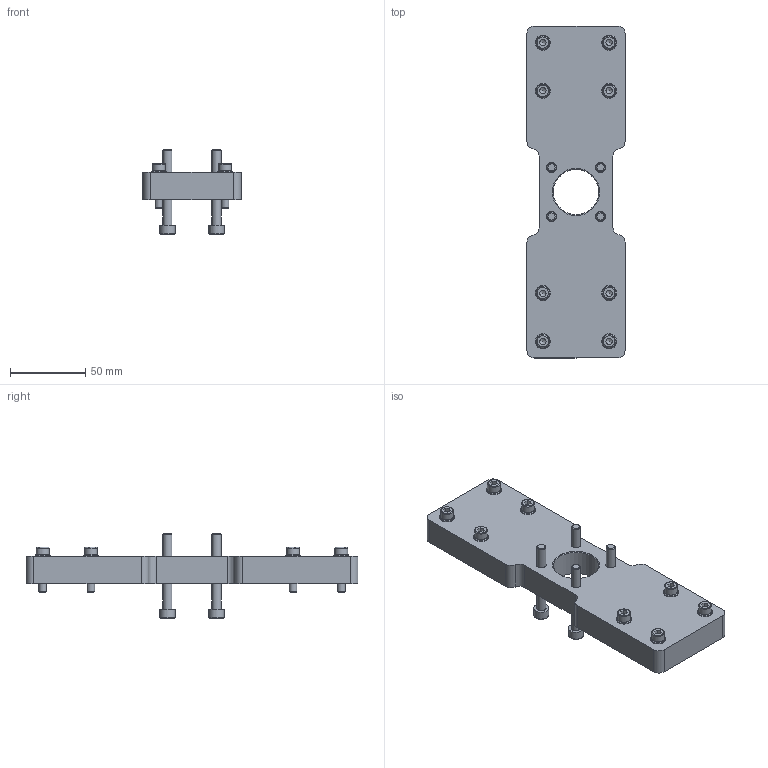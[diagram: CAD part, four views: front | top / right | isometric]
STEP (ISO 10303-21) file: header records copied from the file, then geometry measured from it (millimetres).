
FILE_DESCRIPTION(/* description */ ('Crossbar ETH032 with outrigger bearing'),/* implementation_level */ '2;1');
FILE_NAME(/* name */ 'D:\InventorWorkspace2017\CAD\Projekte_EDEM\HLR\Zubehörteile\0242.035-03.stp',/* time_stamp */ '2019-02-13T11:54:19+01:00',/* author */ ('544672'),/* organization */ (''),/* preprocessor_version */ 'ST-DEVELOPER v16.5',/* originating_system */ 'Autodesk Inventor 2017',/* authorisation */ '');
FILE_SCHEMA (('AUTOMOTIVE_DESIGN { 1 0 10303 214 3 1 1 }'));
Length unit declared in the file: millimetre
Products named in the file (5): 0242.035-03; 0241.027; 135-721033; 135-728812; 130-302351
Assembly tree (21 placements, depth 2):
  0242.035-03
    0241.027
    135-721033  x8
    135-728812  x8
    130-302351  x4
Bounding box: 65 x 220 x 56 mm (x, y, z)
Volume: 235310.9 mm3; surface area: 52531.8 mm2
Topology: 21 solids, 21 shells, 257 faces, 563 edges, 360 vertices
Faces by surface type: plane 134, cylinder 65, cone 34, torus 24
Full cylindrical faces by diameter (mm): 5 x8, 5.3 x8, 5.5 x8, 6 x4, 6.6 x4, 8.5 x8, 10 x12, 30.1 x1
Entity records: 2292 total; most frequent: DIRECTION 398, CARTESIAN_POINT 376, ORIENTED_EDGE 286, AXIS2_PLACEMENT_3D 169, EDGE_CURVE 143, EDGE_LOOP 132, VERTEX_POINT 111, FACE_OUTER_BOUND 72
